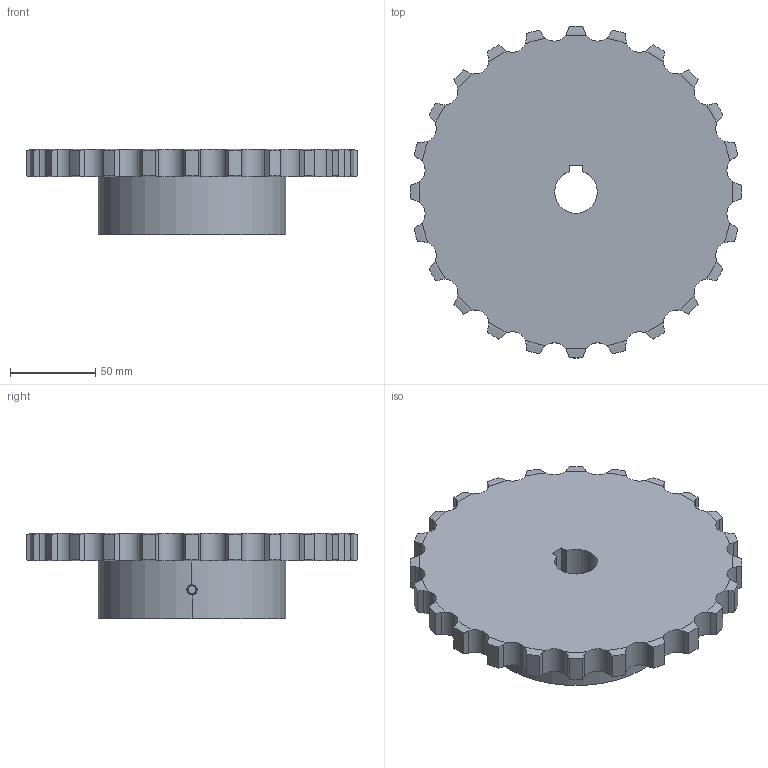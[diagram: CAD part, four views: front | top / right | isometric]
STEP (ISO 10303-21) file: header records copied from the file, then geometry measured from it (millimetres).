
FILE_DESCRIPTION((''),'2;1');
FILE_NAME('510-501-2524_PRT','2021-02-13T',('Brieden'),('Brieden'),'PRO/ENGINEER BY PARAMETRIC TECHNOLOGY CORPORATION, 2010160','PRO/ENGINEER BY PARAMETRIC TECHNOLOGY CORPORATION, 2010160','');
FILE_SCHEMA(('AUTOMOTIVE_DESIGN { 1 0 10303 214 1 1 1 1 }'));
Length unit declared in the file: millimetre
Products named in the file (1): 510-501-2524_PRT
Bounding box: 194.57 x 194.57 x 50 mm (x, y, z)
Volume: 736883.9 mm3; surface area: 82418.9 mm2
Topology: 1 solids, 1 shells, 165 faces, 477 edges, 316 vertices
Faces by surface type: cylinder 103, torus 48, plane 8, bspline 6
Entity records: 8074 total; most frequent: CARTESIAN_POINT 2499, ORIENTED_EDGE 954, DIRECTION 745, PRESENTATION_STYLE_ASSIGNMENT 478, STYLED_ITEM 478, CURVE_STYLE 477, EDGE_CURVE 477, VERTEX_POINT 316
